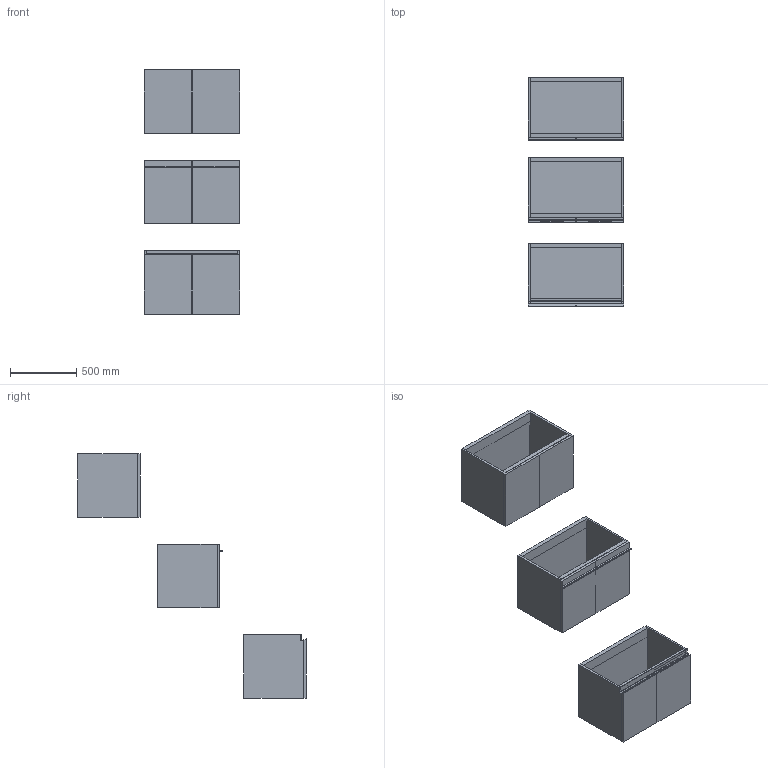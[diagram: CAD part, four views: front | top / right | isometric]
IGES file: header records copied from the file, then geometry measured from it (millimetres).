
Start section: Data from Parasolid IGES Translator 19.0.9, Copyright(c) 2006 Siemens PL M Software. All Rights Reserved.
Global section: file name: noorth-SI-H 48 D 47 W 72_8471.igs; native system: By Siemens PLM Incorporated; preprocessor: XPlus GENERIC/IGES 19.0.9; author: Noname; organization: Noname; date: 20200601.105121; units: metre
Bounding box: 720 x 1719.1 x 1840.01 mm (x, y, z)
Volume: 63282694.2 mm3; surface area: 9562411.2 mm2
Topology: 27 solids, 27 shells, 264 faces, 574 edges, 340 vertices
Faces by surface type: plane 180, cylinder 52, sphere 20, torus 12
